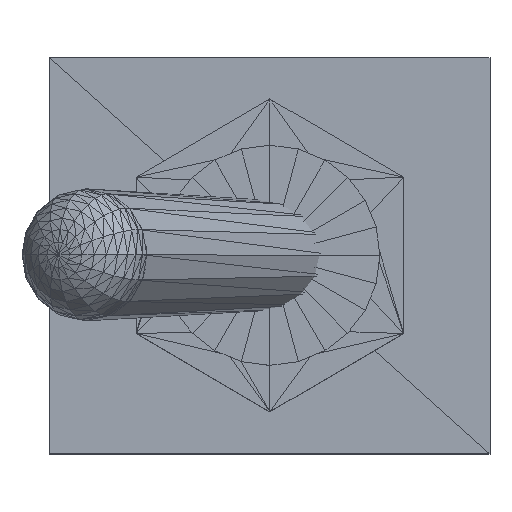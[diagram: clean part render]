
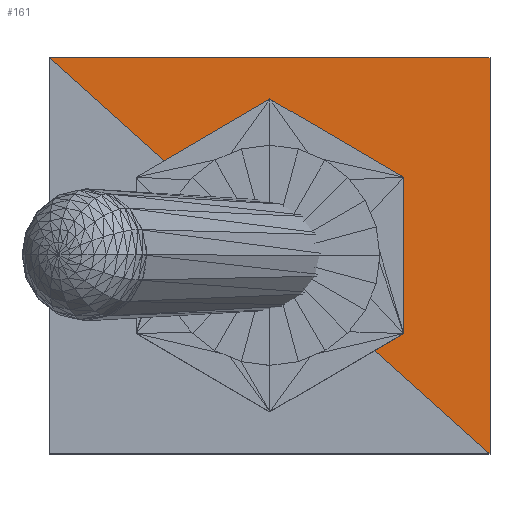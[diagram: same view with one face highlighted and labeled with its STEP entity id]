
A CAD part, top view. The second image highlights one B-rep face of the part: STEP entity #161.
In plain terms, the highlighted planar face has unit normal (0, 0, 1).
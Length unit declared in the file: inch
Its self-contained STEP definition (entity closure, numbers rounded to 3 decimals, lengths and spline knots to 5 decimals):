
#68=CARTESIAN_POINT('',(-0.25,0.22492,0.37505));
#69=VERTEX_POINT('',#68);
#76=CARTESIAN_POINT('',(0.25,-0.22508,0.37495));
#77=VERTEX_POINT('',#76);
#84=CARTESIAN_POINT('',(0.25,-0.22508,0.37495));
#85=DIRECTION('',(-0.743,0.669,0.));
#86=VECTOR('',#85,0.67268);
#87=LINE('',#84,#86);
#88=EDGE_CURVE('',#77,#69,#87,.T.);
#139=CARTESIAN_POINT('',(-0.25,0.22492,0.37505));
#140=DIRECTION('',(0.,0.,1.));
#141=DIRECTION('',(1.,0.,0.));
#142=AXIS2_PLACEMENT_3D('',#139,#140,#141);
#143=PLANE('',#142);
#144=ORIENTED_EDGE('',*,*,#88,.F.);
#145=CARTESIAN_POINT('',(0.25,0.22492,0.37505));
#146=VERTEX_POINT('',#145);
#147=CARTESIAN_POINT('',(0.25,-0.22508,0.37495));
#148=DIRECTION('',(0.,1.,0.));
#149=VECTOR('',#148,0.45);
#150=LINE('',#147,#149);
#151=EDGE_CURVE('',#77,#146,#150,.T.);
#152=ORIENTED_EDGE('',*,*,#151,.T.);
#153=CARTESIAN_POINT('',(-0.25,0.22492,0.37505));
#154=DIRECTION('',(1.,0.,-0.));
#155=VECTOR('',#154,0.5);
#156=LINE('',#153,#155);
#157=EDGE_CURVE('',#69,#146,#156,.T.);
#158=ORIENTED_EDGE('',*,*,#157,.F.);
#159=EDGE_LOOP('',(#144,#152,#158));
#160=FACE_BOUND('',#159,.T.);
#161=ADVANCED_FACE('',(#160),#143,.T.);
